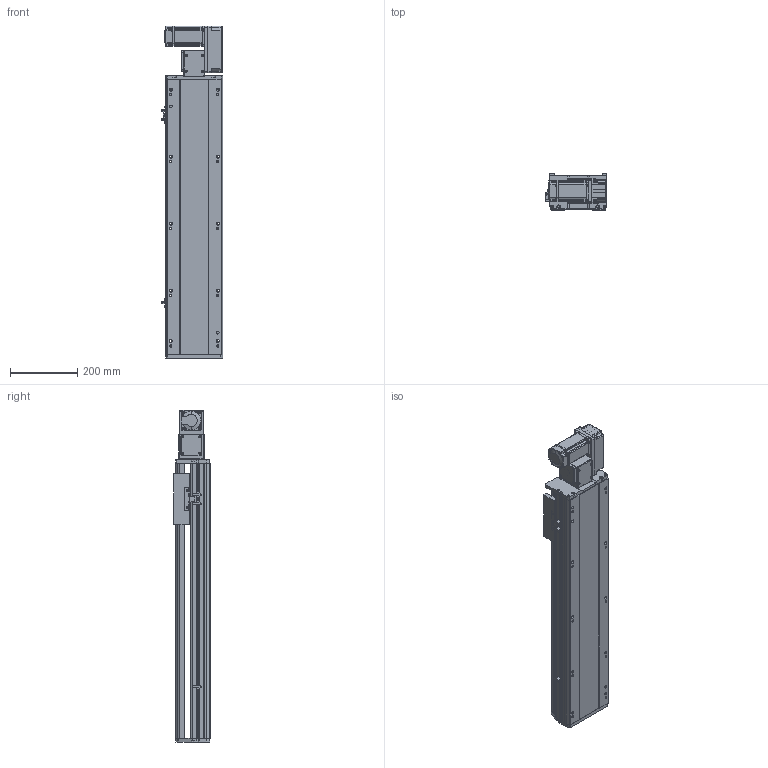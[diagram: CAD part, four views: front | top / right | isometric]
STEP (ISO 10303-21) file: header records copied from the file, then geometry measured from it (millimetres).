
FILE_DESCRIPTION (( 'STEP AP214' ), '1' );
FILE_NAME ('RTB17S-XX-550-R-M40-C4.STEP', '2025-12-11T07:34:04', ( '' ), ( '' ), 'SwSTEP 2.0', 'SolidWorks 2018', '' );
FILE_SCHEMA (( 'AUTOMOTIVE_DESIGN' ));
Length unit declared in the file: millimetre
Products named in the file (14): RTB17S-L-014-T20--々湍釱^RTB17S-R-々湍釱蚾饜-400W_RTB17S-XX-XX-R-M40-C4; 400W侜督萇儂^RTB17S-XX-XX-R-M40-C4; RTB17S-XX-550-R-M40-C4; RTB17S-L-007奻裔^RTB17S-XX-XX-R-M40-C4; RTB14-L-017P^RTB17S-R-々湍釱蚾饜-400W_RTB17S-XX-XX-R-M40-C4; RTB17S-L-004佪裝蹟譫蟀諉釱^RTB17S-XX-XX-R-M40-C4; RTB14-L-005P--轴承塑胶压盖^RTB17S-R-皮带座装配-400W_RTB17S-XX-XX-R-M40-C4; RTB17S-R-々湍釱蚾饜-400W^RTB17S-XX-XX-R-M40-C4; RTB17-R-011菁釱^RTB17S-XX-XX-R-M40-C4; RTB17S-L-001耜醱啣^RTB17S-XX-XX-R-M40-C4; RTB14-L-008-M20--萇儂啣^RTB17S-R-々湍釱蚾饜-400W_RTB17S-XX-XX-R-M40-C4; RTB14-L-018P^RTB17S-R-々湍釱蚾饜-400W_RTB17S-XX-XX-R-M40-C4; OMRON EE-SX672 传感器^RTB17S-XX-XX-R-M40-C4; RTH13-BL-012覜茼え俋离^RTB17S-XX-XX-R-M40-C4
Assembly tree (16 placements, depth 3):
  RTB17S-XX-550-R-M40-C4
    RTB17-R-011菁釱^RTB17S-XX-XX-R-M40-C4
    RTB17S-L-007奻裔^RTB17S-XX-XX-R-M40-C4
    OMRON EE-SX672 传感器^RTB17S-XX-XX-R-M40-C4  x3
    RTB17S-L-001耜醱啣^RTB17S-XX-XX-R-M40-C4
    400W侜督萇儂^RTB17S-XX-XX-R-M40-C4
    RTB17S-L-004佪裝蹟譫蟀諉釱^RTB17S-XX-XX-R-M40-C4
    RTH13-BL-012覜茼え俋离^RTB17S-XX-XX-R-M40-C4
    RTB17S-R-々湍釱蚾饜-400W^RTB17S-XX-XX-R-M40-C4
      RTB17S-L-014-T20--々湍釱^RTB17S-R-々湍釱蚾饜-400W_RTB17S-XX-XX-R-M40-C4
      RTB14-L-005P--轴承塑胶压盖^RTB17S-R-皮带座装配-400W_RTB17S-XX-XX-R-M40-C4
      RTB14-L-008-M20--萇儂啣^RTB17S-R-々湍釱蚾饜-400W_RTB17S-XX-XX-R-M40-C4
      RTB14-L-017P^RTB17S-R-々湍釱蚾饜-400W_RTB17S-XX-XX-R-M40-C4  x2
      RTB14-L-018P^RTB17S-R-々湍釱蚾饜-400W_RTB17S-XX-XX-R-M40-C4
Bounding box: 183.5 x 108 x 991 mm (x, y, z)
Volume: 8704659.7 mm3; surface area: 1097883.7 mm2
Topology: 15 solids, 15 shells, 2173 faces, 5979 edges, 3897 vertices
Faces by surface type: plane 1064, cylinder 661, bspline 301, cone 139, torus 8
Entity records: 61097 total; most frequent: CARTESIAN_POINT 16984, ORIENTED_EDGE 8802, DIRECTION 8216, EDGE_CURVE 4401, VERTEX_POINT 2885, AXIS2_PLACEMENT_3D 2815, LINE 2586, VECTOR 2586
